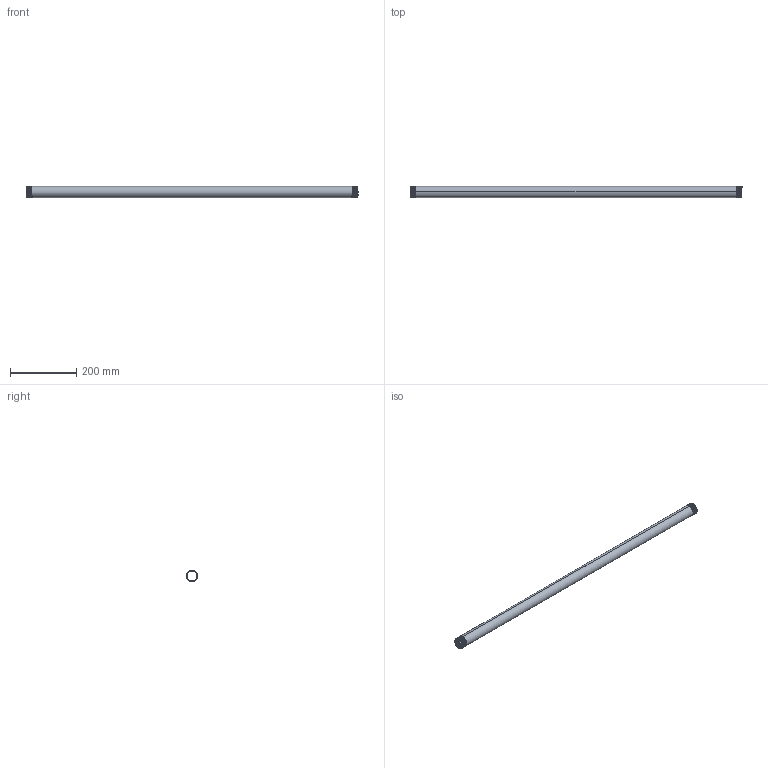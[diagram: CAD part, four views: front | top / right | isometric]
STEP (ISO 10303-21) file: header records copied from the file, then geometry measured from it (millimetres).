
FILE_DESCRIPTION (( 'STEP AP203' ), '1' );
FILE_NAME ('3D_R210_1x1000_17191625.STEP', '2024-08-16T14:53:09', ( '' ), ( '' ), 'SwSTEP 2.0', 'SolidWorks 2024', '' );
FILE_SCHEMA (( 'CONFIG_CONTROL_DESIGN' ));
Length unit declared in the file: millimetre
Products named in the file (1): 3D_R210_1x1000_17191625
Bounding box: 1000 x 33.68 x 33.7 mm (x, y, z)
Volume: 197589.5 mm3; surface area: 201360.2 mm2
Topology: 1 solids, 1 shells, 68 faces, 190 edges, 124 vertices
Faces by surface type: cone 54, bspline 6, cylinder 4, plane 4
Entity records: 10179 total; most frequent: CARTESIAN_POINT 8609, ORIENTED_EDGE 380, DIRECTION 210, EDGE_CURVE 190, VERTEX_POINT 124, B_SPLINE_CURVE_WITH_KNOTS 112, AXIS2_PLACEMENT_3D 77, EDGE_LOOP 70
